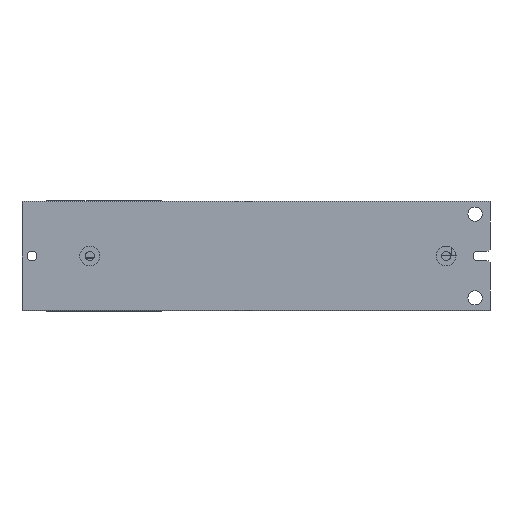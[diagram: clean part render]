
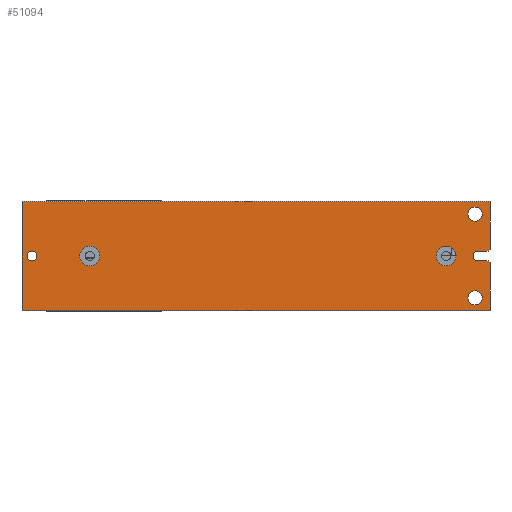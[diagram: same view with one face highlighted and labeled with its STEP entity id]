
A CAD part, left-side view. The second image highlights one B-rep face of the part: STEP entity #51094.
In plain terms, the highlighted planar face has unit normal (-1, 0, 0).
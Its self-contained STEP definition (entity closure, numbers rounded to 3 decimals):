
#45431=PLANE('',#163147);
#49933=FACE_BOUND('',#64754,.T.);
#49934=FACE_BOUND('',#64755,.T.);
#49935=FACE_BOUND('',#64756,.T.);
#49936=FACE_BOUND('',#64757,.T.);
#49937=FACE_BOUND('',#64758,.T.);
#51094=ADVANCED_FACE('',(#49933,#49934,#49935,#49936,#49937,#58446),#45431,
.F.);
#58446=FACE_OUTER_BOUND('',#64759,.T.);
#64754=EDGE_LOOP('',(#101139,#101140));
#64755=EDGE_LOOP('',(#101141,#101142));
#64756=EDGE_LOOP('',(#101143,#101144));
#64757=EDGE_LOOP('',(#101145,#101146));
#64758=EDGE_LOOP('',(#101147,#101148));
#64759=EDGE_LOOP('',(#101149,#101150,#101151,#101152,#101153,#101154,#101155,
#101156,#101157,#101158,#101159));
#72239=LINE('',#205220,#85922);
#72270=LINE('',#205306,#85953);
#72271=LINE('',#205309,#85954);
#72272=LINE('',#205310,#85955);
#72273=LINE('',#205312,#85956);
#72274=LINE('',#205315,#85957);
#72275=LINE('',#205317,#85958);
#72276=LINE('',#205319,#85959);
#72277=LINE('',#205321,#85960);
#85922=VECTOR('',#173633,1.);
#85953=VECTOR('',#173726,1.);
#85954=VECTOR('',#173727,1.);
#85955=VECTOR('',#173728,1.);
#85956=VECTOR('',#173729,1.);
#85957=VECTOR('',#173732,1.);
#85958=VECTOR('',#173733,1.);
#85959=VECTOR('',#173734,1.);
#85960=VECTOR('',#173735,1.);
#101139=ORIENTED_EDGE('',*,*,#144426,.T.);
#101140=ORIENTED_EDGE('',*,*,#143934,.T.);
#101141=ORIENTED_EDGE('',*,*,#144427,.T.);
#101142=ORIENTED_EDGE('',*,*,#143938,.T.);
#101143=ORIENTED_EDGE('',*,*,#144428,.F.);
#101144=ORIENTED_EDGE('',*,*,#144001,.F.);
#101145=ORIENTED_EDGE('',*,*,#144429,.F.);
#101146=ORIENTED_EDGE('',*,*,#144006,.F.);
#101147=ORIENTED_EDGE('',*,*,#144430,.T.);
#101148=ORIENTED_EDGE('',*,*,#144012,.T.);
#101149=ORIENTED_EDGE('',*,*,#144431,.F.);
#101150=ORIENTED_EDGE('',*,*,#144432,.T.);
#101151=ORIENTED_EDGE('',*,*,#144377,.T.);
#101152=ORIENTED_EDGE('',*,*,#144433,.T.);
#101153=ORIENTED_EDGE('',*,*,#144434,.T.);
#101154=ORIENTED_EDGE('',*,*,#144435,.T.);
#101155=ORIENTED_EDGE('',*,*,#144008,.T.);
#101156=ORIENTED_EDGE('',*,*,#144436,.T.);
#101157=ORIENTED_EDGE('',*,*,#144437,.T.);
#101158=ORIENTED_EDGE('',*,*,#144438,.T.);
#101159=ORIENTED_EDGE('',*,*,#144439,.T.);
#132796=VERTEX_POINT('',#204223);
#132797=VERTEX_POINT('',#204224);
#132800=VERTEX_POINT('',#204232);
#132801=VERTEX_POINT('',#204233);
#132855=VERTEX_POINT('',#204406);
#132856=VERTEX_POINT('',#204408);
#132860=VERTEX_POINT('',#204417);
#132861=VERTEX_POINT('',#204419);
#132862=VERTEX_POINT('',#204423);
#132863=VERTEX_POINT('',#204424);
#132866=VERTEX_POINT('',#204432);
#132867=VERTEX_POINT('',#204433);
#133143=VERTEX_POINT('',#205219);
#133144=VERTEX_POINT('',#205221);
#133168=VERTEX_POINT('',#205307);
#133169=VERTEX_POINT('',#205308);
#133170=VERTEX_POINT('',#205311);
#133171=VERTEX_POINT('',#205313);
#133172=VERTEX_POINT('',#205316);
#133173=VERTEX_POINT('',#205318);
#133174=VERTEX_POINT('',#205320);
#143934=EDGE_CURVE('',#132796,#132797,#159949,.T.);
#143938=EDGE_CURVE('',#132800,#132801,#159951,.T.);
#144001=EDGE_CURVE('',#132855,#132856,#159975,.T.);
#144006=EDGE_CURVE('',#132860,#132861,#159977,.T.);
#144008=EDGE_CURVE('',#132862,#132863,#159978,.T.);
#144012=EDGE_CURVE('',#132866,#132867,#159980,.T.);
#144377=EDGE_CURVE('',#133144,#133143,#72239,.T.);
#144426=EDGE_CURVE('',#132797,#132796,#160123,.T.);
#144427=EDGE_CURVE('',#132801,#132800,#160124,.T.);
#144428=EDGE_CURVE('',#132856,#132855,#160125,.T.);
#144429=EDGE_CURVE('',#132861,#132860,#160126,.T.);
#144430=EDGE_CURVE('',#132867,#132866,#160127,.T.);
#144431=EDGE_CURVE('',#133168,#133169,#72270,.T.);
#144432=EDGE_CURVE('',#133168,#133144,#72271,.T.);
#144433=EDGE_CURVE('',#133143,#133170,#72272,.T.);
#144434=EDGE_CURVE('',#133170,#133171,#72273,.T.);
#144435=EDGE_CURVE('',#133171,#132862,#160128,.T.);
#144436=EDGE_CURVE('',#132863,#133172,#72274,.T.);
#144437=EDGE_CURVE('',#133172,#133173,#72275,.T.);
#144438=EDGE_CURVE('',#133173,#133174,#72276,.T.);
#144439=EDGE_CURVE('',#133174,#133169,#72277,.T.);
#159949=CIRCLE('',#162856,3.6);
#159951=CIRCLE('',#162859,3.6);
#159975=CIRCLE('',#162901,5.);
#159977=CIRCLE('',#162904,5.);
#159978=CIRCLE('',#162906,2.4);
#159980=CIRCLE('',#162909,2.4);
#160123=CIRCLE('',#163141,3.6);
#160124=CIRCLE('',#163142,3.6);
#160125=CIRCLE('',#163143,5.);
#160126=CIRCLE('',#163144,5.);
#160127=CIRCLE('',#163145,2.4);
#160128=CIRCLE('',#163146,2.4);
#162856=AXIS2_PLACEMENT_3D('',#204222,#172837,#172838);
#162859=AXIS2_PLACEMENT_3D('',#204231,#172845,#172846);
#162901=AXIS2_PLACEMENT_3D('',#204407,#172966,#172967);
#162904=AXIS2_PLACEMENT_3D('',#204418,#172975,#172976);
#162906=AXIS2_PLACEMENT_3D('',#204422,#172980,#172981);
#162909=AXIS2_PLACEMENT_3D('',#204431,#172988,#172989);
#163141=AXIS2_PLACEMENT_3D('',#205301,#173716,#173717);
#163142=AXIS2_PLACEMENT_3D('',#205302,#173718,#173719);
#163143=AXIS2_PLACEMENT_3D('',#205303,#173720,#173721);
#163144=AXIS2_PLACEMENT_3D('',#205304,#173722,#173723);
#163145=AXIS2_PLACEMENT_3D('',#205305,#173724,#173725);
#163146=AXIS2_PLACEMENT_3D('',#205314,#173730,#173731);
#163147=AXIS2_PLACEMENT_3D('',#205322,#173736,#173737);
#172837=DIRECTION('',(1.,0.,0.));
#172838=DIRECTION('',(0.,1.,0.));
#172845=DIRECTION('',(1.,0.,0.));
#172846=DIRECTION('',(0.,1.,0.));
#172966=DIRECTION('',(-1.,0.,0.));
#172967=DIRECTION('',(0.,-1.,0.));
#172975=DIRECTION('',(-1.,0.,0.));
#172976=DIRECTION('',(0.,-1.,0.));
#172980=DIRECTION('',(1.,0.,0.));
#172981=DIRECTION('',(0.,1.,0.));
#172988=DIRECTION('',(1.,0.,0.));
#172989=DIRECTION('',(0.,1.,0.));
#173633=DIRECTION('',(0.,0.,1.));
#173716=DIRECTION('',(1.,0.,0.));
#173717=DIRECTION('',(0.,1.,0.));
#173718=DIRECTION('',(1.,0.,0.));
#173719=DIRECTION('',(0.,1.,0.));
#173720=DIRECTION('',(-1.,0.,0.));
#173721=DIRECTION('',(0.,-1.,0.));
#173722=DIRECTION('',(-1.,0.,0.));
#173723=DIRECTION('',(0.,-1.,0.));
#173724=DIRECTION('',(1.,0.,0.));
#173725=DIRECTION('',(0.,1.,0.));
#173726=DIRECTION('',(0.,0.,1.));
#173727=DIRECTION('',(0.,-1.,0.));
#173728=DIRECTION('',(0.,0.707,0.707));
#173729=DIRECTION('',(0.,1.,0.));
#173730=DIRECTION('',(1.,0.,0.));
#173731=DIRECTION('',(0.,1.,0.));
#173732=DIRECTION('',(0.,-1.,0.));
#173733=DIRECTION('',(0.,-0.707,0.707));
#173734=DIRECTION('',(0.,0.,1.));
#173735=DIRECTION('',(0.,1.,0.));
#173736=DIRECTION('',(1.,0.,0.));
#173737=DIRECTION('',(0.,1.,0.));
#204222=CARTESIAN_POINT('',(-95.383,-50.538,13.841));
#204223=CARTESIAN_POINT('',(-95.383,-54.138,13.841));
#204224=CARTESIAN_POINT('',(-95.383,-46.938,13.841));
#204231=CARTESIAN_POINT('',(-95.383,-50.538,55.841));
#204232=CARTESIAN_POINT('',(-95.383,-54.138,55.841));
#204233=CARTESIAN_POINT('',(-95.383,-46.938,55.841));
#204406=CARTESIAN_POINT('',(-95.383,-31.038,34.841));
#204407=CARTESIAN_POINT('',(-95.383,-36.038,34.841));
#204408=CARTESIAN_POINT('',(-95.383,-41.038,34.841));
#204417=CARTESIAN_POINT('',(-95.383,147.962,34.841));
#204418=CARTESIAN_POINT('',(-95.383,142.962,34.841));
#204419=CARTESIAN_POINT('',(-95.383,137.962,34.841));
#204422=CARTESIAN_POINT('',(-95.383,-52.038,34.841));
#204423=CARTESIAN_POINT('',(-95.383,-49.638,34.841));
#204424=CARTESIAN_POINT('',(-95.383,-52.038,37.241));
#204431=CARTESIAN_POINT('',(-95.383,171.962,34.841));
#204432=CARTESIAN_POINT('',(-95.383,169.562,34.841));
#204433=CARTESIAN_POINT('',(-95.383,174.362,34.841));
#205219=CARTESIAN_POINT('',(-95.383,-58.038,31.441));
#205220=CARTESIAN_POINT('',(-95.383,-58.038,7.341));
#205221=CARTESIAN_POINT('',(-95.383,-58.038,7.641));
#205301=CARTESIAN_POINT('',(-95.383,-50.538,13.841));
#205302=CARTESIAN_POINT('',(-95.383,-50.538,55.841));
#205303=CARTESIAN_POINT('',(-95.383,-36.038,34.841));
#205304=CARTESIAN_POINT('',(-95.383,142.962,34.841));
#205305=CARTESIAN_POINT('',(-95.383,171.962,34.841));
#205306=CARTESIAN_POINT('',(-95.383,176.962,7.341));
#205307=CARTESIAN_POINT('',(-95.383,176.962,7.641));
#205308=CARTESIAN_POINT('',(-95.383,176.962,62.041));
#205309=CARTESIAN_POINT('',(-95.383,176.962,7.641));
#205310=CARTESIAN_POINT('',(-95.383,-57.038,32.441));
#205311=CARTESIAN_POINT('',(-95.383,-57.038,32.441));
#205312=CARTESIAN_POINT('',(-95.383,-52.038,32.441));
#205313=CARTESIAN_POINT('',(-95.383,-52.038,32.441));
#205314=CARTESIAN_POINT('',(-95.383,-52.038,34.841));
#205315=CARTESIAN_POINT('',(-95.383,-58.038,37.241));
#205316=CARTESIAN_POINT('',(-95.383,-57.038,37.241));
#205317=CARTESIAN_POINT('',(-95.383,-58.038,38.241));
#205318=CARTESIAN_POINT('',(-95.383,-58.038,38.241));
#205319=CARTESIAN_POINT('',(-95.383,-58.038,7.341));
#205320=CARTESIAN_POINT('',(-95.383,-58.038,62.041));
#205321=CARTESIAN_POINT('',(-95.383,176.962,62.041));
#205322=CARTESIAN_POINT('',(-95.383,176.962,7.341));
